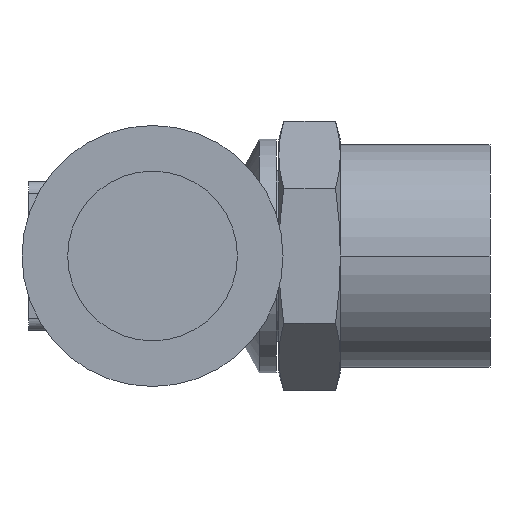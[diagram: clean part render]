
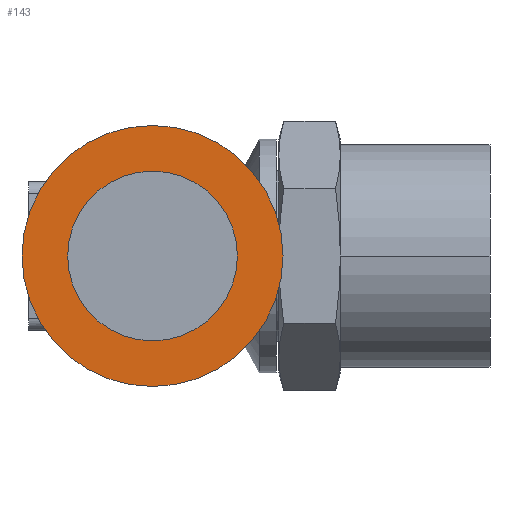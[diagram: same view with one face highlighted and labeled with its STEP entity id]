
A CAD part, left-side view. The second image highlights one B-rep face of the part: STEP entity #143.
In plain terms, the highlighted planar face has unit normal (-1, 0, 0).
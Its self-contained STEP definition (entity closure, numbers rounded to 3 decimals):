
#143 = ADVANCED_FACE( '', ( #314, #315 ), #316, .T. );
#314 = FACE_BOUND( '', #515, .T. );
#315 = FACE_OUTER_BOUND( '', #516, .T. );
#316 = PLANE( '', #517 );
#515 = EDGE_LOOP( '', ( #1103, #1104 ) );
#516 = EDGE_LOOP( '', ( #1105, #1106 ) );
#517 = AXIS2_PLACEMENT_3D( '', #1107, #1108, #1109 );
#1103 = ORIENTED_EDGE( '', *, *, #1386, .T. );
#1104 = ORIENTED_EDGE( '', *, *, #1382, .T. );
#1105 = ORIENTED_EDGE( '', *, *, #1324, .T. );
#1106 = ORIENTED_EDGE( '', *, *, #1475, .T. );
#1107 = CARTESIAN_POINT( '', ( -27.3, 30.85, 0. ) );
#1108 = DIRECTION( '', ( -1., 0., 0. ) );
#1109 = DIRECTION( '', ( 0., 1., 0. ) );
#1324 = EDGE_CURVE( '', #1562, #1566, #1568, .T. );
#1382 = EDGE_CURVE( '', #1678, #1675, #1679, .T. );
#1386 = EDGE_CURVE( '', #1675, #1678, #1684, .T. );
#1475 = EDGE_CURVE( '', #1566, #1562, #1813, .T. );
#1562 = VERTEX_POINT( '', #2027 );
#1566 = VERTEX_POINT( '', #2032 );
#1568 = CIRCLE( '', #2035, 12.3 );
#1675 = VERTEX_POINT( '', #2245 );
#1678 = VERTEX_POINT( '', #2249 );
#1679 = CIRCLE( '', #2250, 8. );
#1684 = CIRCLE( '', #2256, 8. );
#1813 = CIRCLE( '', #2624, 12.3 );
#2027 = CARTESIAN_POINT( '', ( -27.3, 37., 0. ) );
#2032 = CARTESIAN_POINT( '', ( -27.3, 12.4, 0. ) );
#2035 = AXIS2_PLACEMENT_3D( '', #2950, #2951, #2952 );
#2245 = CARTESIAN_POINT( '', ( -27.3, 32.7, 0. ) );
#2249 = CARTESIAN_POINT( '', ( -27.3, 16.7, 0. ) );
#2250 = AXIS2_PLACEMENT_3D( '', #3056, #3057, #3058 );
#2256 = AXIS2_PLACEMENT_3D( '', #3066, #3067, #3068 );
#2624 = AXIS2_PLACEMENT_3D( '', #3228, #3229, #3230 );
#2950 = CARTESIAN_POINT( '', ( -27.3, 24.7, 0. ) );
#2951 = DIRECTION( '', ( -1., 0., 0. ) );
#2952 = DIRECTION( '', ( 0., 1., 0. ) );
#3056 = CARTESIAN_POINT( '', ( -27.3, 24.7, 0. ) );
#3057 = DIRECTION( '', ( 1., 0., 0. ) );
#3058 = DIRECTION( '', ( 0., 1., 0. ) );
#3066 = CARTESIAN_POINT( '', ( -27.3, 24.7, 0. ) );
#3067 = DIRECTION( '', ( 1., 0., 0. ) );
#3068 = DIRECTION( '', ( 0., 1., 0. ) );
#3228 = CARTESIAN_POINT( '', ( -27.3, 24.7, 0. ) );
#3229 = DIRECTION( '', ( -1., 0., 0. ) );
#3230 = DIRECTION( '', ( 0., 1., 0. ) );
